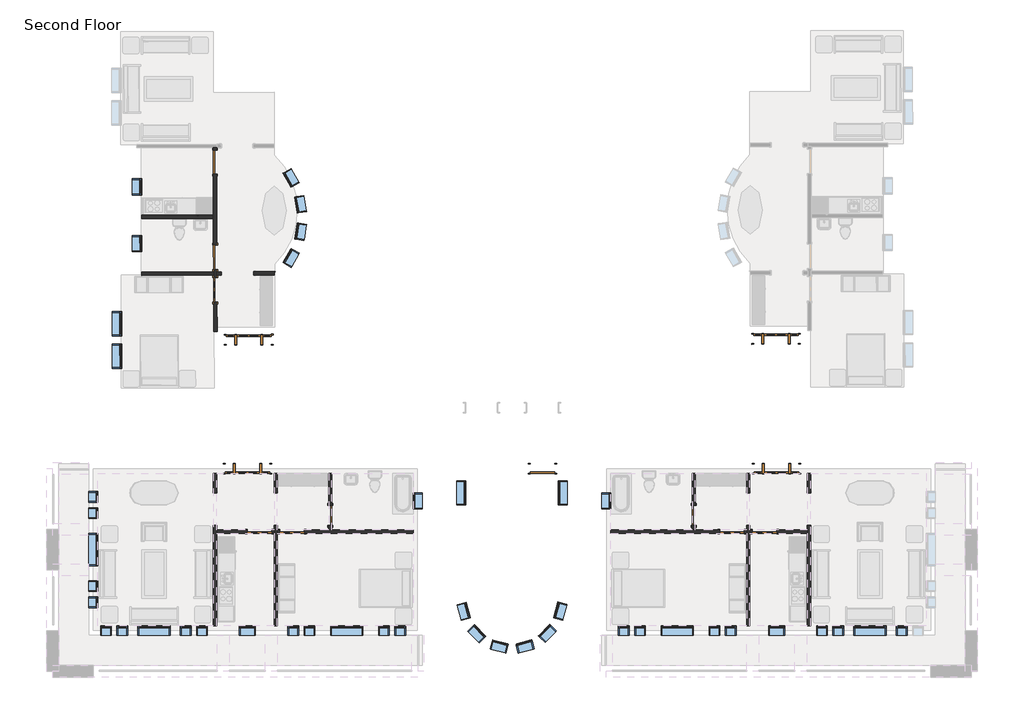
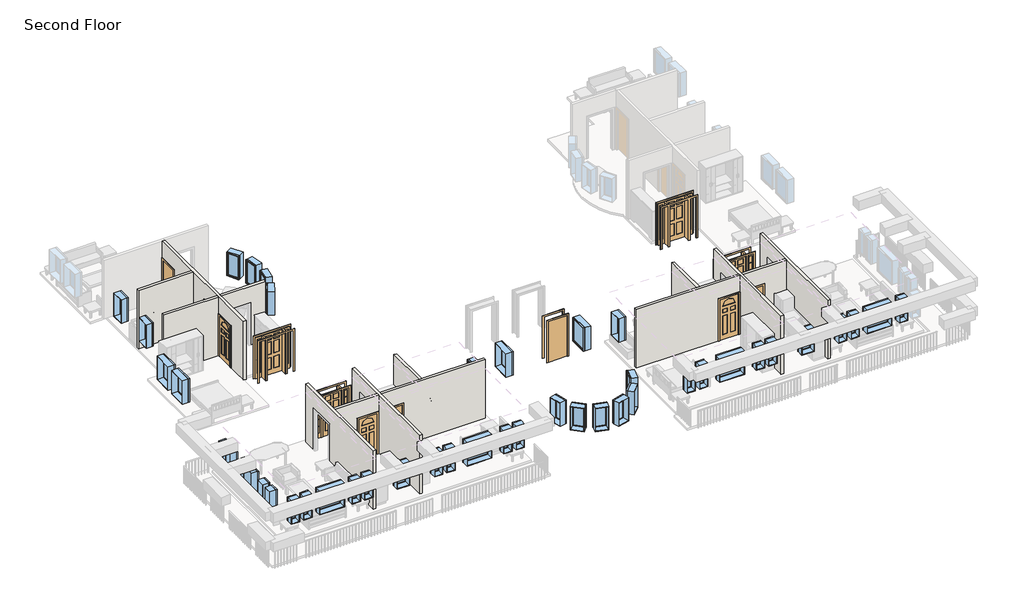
# One storey, part 1 of 6: 44 windows, 14 doors, 14 walls.
"""IFC4 building model written with IfcOpenShell, lengths in millimetres."""

from ifc_helpers import new_model, si_unit, frame, origin, place, context, project, spatial, polyline, circle_curve, outline, extrude, faceted_brep, transform, mapped, element, save
from ifc_brep_helpers import plane_surface, cylinder_surface, advanced_brep
from components import door_829da954, door_2e3b4da2, door_4d6c7550, door_e36758a9, door_cc5399a4, door_a1797ceb, door_a3eb833a, door_dba5aa2e, door_ffdb1193, window_da97879f, window_d61ef850, window_60baf983, window_ed80354a, window_0e2fc6ce, window_6eb97611, window_d89bf842

model = new_model("IFC4")

# Units and contexts
model_context = context("Model", 3, world=origin())
ifc_project = project(units=[si_unit("LENGTHUNIT", "METRE", prefix="MILLI")], contexts=[model_context])

# Site, building, storey
site = spatial("IfcSite", under=ifc_project)
building = spatial("IfcBuilding", under=site)
storey = spatial("IfcBuildingStorey", under=building, Name="Second Floor", Elevation=3048.0)

# Doors
placement = place(None, origin())
door_shape = door_829da954(model_context)
element("IfcDoor", 1, ObjectType="Single-Decorative 2 : 36\" x 84\"", at=placement, inside=storey, context=model_context, shape_type="MappedRepresentation", body=[
    mapped(door_shape, transform((-6669.0589563, -30331.8808133, 3048.0), x_axis=(1.0, 0.0, 0.0), y_axis=(0.0, 1.0, 0.0), z_axis=(0.0, 0.0, 1.0))),
])
element("IfcDoor", 2, ObjectType="Single-Decorative 2 : 36\" x 84\"", at=placement, inside=storey, context=model_context, shape_type="MappedRepresentation", body=[
    mapped(door_shape, transform((-24420.4839563, -30331.8808133, 3048.0), x_axis=(1.0, 0.0, 0.0), y_axis=(0.0, 1.0, 0.0), z_axis=(0.0, 0.0, 1.0))),
])
door_2_shape = door_2e3b4da2(model_context)
element("IfcDoor", 3, ObjectType="Single-Decorative 2 : 36\" x 84\"", at=placement, inside=storey, context=model_context, shape_type="MappedRepresentation", body=[
    mapped(door_2_shape, transform((-5449.8589563, -30331.8808133, 3048.0), x_axis=(-1.0, 0.0, 0.0), y_axis=(0.0, -1.0, 0.0), z_axis=(0.0, 0.0, 1.0))),
])
element("IfcDoor", 4, ObjectType="Single-Decorative 2 : 36\" x 84\"", at=placement, inside=storey, context=model_context, shape_type="MappedRepresentation", body=[
    mapped(door_2_shape, transform((-23201.2839563, -30331.8808133, 3048.0), x_axis=(-1.0, 0.0, 0.0), y_axis=(0.0, -1.0, 0.0), z_axis=(0.0, 0.0, 1.0))),
])
element("IfcDoor", 5, ObjectType="Single-Decorative 2 : 36\" x 84\"", at=placement, inside=storey, context=model_context, shape_type="MappedRepresentation", body=[
    mapped(door_2_shape, transform((-26083.9222963, -21236.9710395, 3048.0), x_axis=(-0.002276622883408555, 0.9999974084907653, 0.0), y_axis=(-0.9999974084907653, -0.002276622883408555, 0.0), z_axis=(0.0, 0.0, 1.0))),
])
door_3_shape = door_4d6c7550(model_context)
element("IfcDoor", 6, ObjectType="Single-Flush : 30\" x 84\"", at=placement, inside=storey, context=model_context, shape_type="MappedRepresentation", body=[
    mapped(door_3_shape, transform((-21764.5964563, -29722.2808133, 3048.0), x_axis=(0.0, -1.0, 0.0), y_axis=(1.0, 0.0, 0.0), z_axis=(0.0, 0.0, 1.0))),
])
door_4_shape = door_e36758a9(model_context)
element("IfcDoor", 7, ObjectType="Single-Flush : 30\" x 84\"", at=placement, inside=storey, context=model_context, shape_type="MappedRepresentation", body=[
    mapped(door_4_shape, transform((-8105.7464563, -29722.2808133, 3048.0), x_axis=(0.0, -1.0, 0.0), y_axis=(1.0, 0.0, 0.0), z_axis=(0.0, 0.0, 1.0))),
])
door_5_shape = door_cc5399a4(model_context)
element("IfcDoor", 8, ObjectType="Single-Flush : 36\" x 84\"", at=placement, inside=storey, context=model_context, shape_type="MappedRepresentation", body=[
    mapped(door_5_shape, transform((-13792.1714563, -27958.5683133, 3048.0), x_axis=(1.0, 0.0, 0.0), y_axis=(0.0, 1.0, 0.0), z_axis=(0.0, 0.0, 1.0))),
])
door_6_shape = door_a1797ceb(model_context)
element("IfcDoor", 9, ObjectType="Single-Flush : 36\" x 84\"", at=placement, inside=storey, context=model_context, shape_type="MappedRepresentation", body=[
    mapped(door_6_shape, transform((-26094.8442239, -16439.5584721, 3048.0), x_axis=(-0.002276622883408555, 0.9999974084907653, 0.0), y_axis=(-0.9999974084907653, -0.002276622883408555, 0.0), z_axis=(0.0, 0.0, 1.0))),
])
door_7_shape = door_a3eb833a(model_context)
element("IfcDoor", 10, ObjectType="Single-Flush : 36\" x 84\"", at=placement, inside=storey, context=model_context, shape_type="MappedRepresentation", body=[
    mapped(door_7_shape, transform((-26086.697955, -20017.7741991, 3048.0), x_axis=(0.002276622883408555, -0.9999974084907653, 0.0), y_axis=(0.9999974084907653, 0.002276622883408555, 0.0), z_axis=(0.0, 0.0, 1.0))),
])
door_8_shape = door_dba5aa2e(model_context)
element("IfcDoor", 11, ObjectType="Single-Raised Panel with Sidelights : 36\" x 84\"", at=placement, inside=storey, context=model_context, shape_type="MappedRepresentation", body=[
    mapped(door_8_shape, transform((-24877.6839563, -27958.5683133, 3048.0), x_axis=(1.0, 0.0, 0.0), y_axis=(0.0, 1.0, 0.0), z_axis=(0.0, 0.0, 1.0))),
])
element("IfcDoor", 12, ObjectType="Single-Raised Panel with Sidelights : 36\" x 84\"", at=placement, inside=storey, context=model_context, shape_type="MappedRepresentation", body=[
    mapped(door_8_shape, transform((-5011.6902332, -23083.5536869, 3048.0), x_axis=(-0.9999997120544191, -0.0007588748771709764, 0.0), y_axis=(0.0007588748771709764, -0.9999997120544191, 0.0), z_axis=(0.0, 0.0, 1.0))),
])
door_9_shape = door_ffdb1193(model_context)
element("IfcDoor", 13, ObjectType="Single-Raised Panel with Sidelights : 36\" x 84\"", at=placement, inside=storey, context=model_context, shape_type="MappedRepresentation", body=[
    mapped(door_9_shape, transform((-4992.6589563, -27958.5683133, 3048.0), x_axis=(-1.0, 0.0, 0.0), y_axis=(0.0, -1.0, 0.0), z_axis=(0.0, 0.0, 1.0))),
])
element("IfcDoor", 14, ObjectType="Single-Raised Panel with Sidelights : 36\" x 84\"", at=placement, inside=storey, context=model_context, shape_type="MappedRepresentation", body=[
    mapped(door_9_shape, transform((-24823.9341006, -23113.6237411, 3048.0), x_axis=(0.9999974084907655, 0.002276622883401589, 0.0), y_axis=(-0.002276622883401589, 0.9999974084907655, 0.0), z_axis=(0.0, 0.0, 1.0))),
])

# Walls
element("IfcWall", 15, ObjectType="Interior - 5\" Partition (2-hr)", at=placement, inside=storey, context=model_context, shape_type="Brep", body=[
    faceted_brep([(-3836.9589563, -33878.3558133, 3048.0), (-3836.9589563, -30395.3808133, 3048.0), (-3836.9589563, -30268.3808133, 3048.0), (-3836.9589563, -30092.1683133, 3048.0), (-3709.9589563, -30092.1683133, 3048.0), (-3709.9589563, -33878.3558133, 3048.0), (-3836.9589563, -28872.9683133, 3048.0), (-3836.9589563, -28134.7808133, 3048.0), (-3709.9589563, -28134.7808133, 3048.0), (-3709.9589563, -28872.9683133, 3048.0), (-3709.9589563, -33878.3558133, 6096.0), (-3709.9589563, -28134.7808133, 6096.0), (-3836.9589563, -28134.7808133, 6096.0), (-3836.9589563, -30268.3808133, 6096.0), (-3836.9589563, -30395.3808133, 6096.0), (-3836.9589563, -33878.3558133, 6096.0), (-3709.9589563, -30092.1683133, 5181.6), (-3709.9589563, -28872.9683133, 5181.6), (-3836.9589563, -30092.1683133, 5181.6), (-3836.9589563, -28872.9683133, 5181.6)], [[[0, 1, 2, 3, 4, 5]], [[6, 7, 8, 9]], [[10, 11, 12, 13, 14, 15]], [[5, 4, 16, 17, 9, 8, 11, 10]], [[18, 3, 2, 1, 0, 15, 14, 13, 12, 7, 6, 19]], [[5, 10, 15, 0]], [[11, 8, 7, 12]], [[9, 17, 19, 6]], [[16, 4, 3, 18]], [[17, 16, 18, 19]]]),
])
element("IfcWall", 16, ObjectType="Interior - 5\" Partition (2-hr)", at=placement, inside=storey, context=model_context, shape_type="Brep", body=[
    faceted_brep([(-5995.9589563, -28134.7808133, 3048.0), (-5995.9589563, -28872.9683133, 3048.0), (-6122.9589563, -28872.9683133, 3048.0), (-6122.9589563, -28134.7808133, 3048.0), (-5995.9589563, -30092.1683133, 3048.0), (-5995.9589563, -30268.3808133, 3048.0), (-5995.9589563, -30395.3808133, 3048.0), (-5995.9589563, -33878.3558133, 3048.0), (-6122.9589563, -33878.3558133, 3048.0), (-6122.9589563, -30395.3808133, 3048.0), (-6122.9589563, -30268.3808133, 3048.0), (-6122.9589563, -30092.1683133, 3048.0), (-5995.9589563, -33878.3558133, 6096.0), (-5995.9589563, -30395.3808133, 6096.0), (-5995.9589563, -30268.3808133, 6096.0), (-5995.9589563, -28134.7808133, 6096.0), (-6122.9589563, -28134.7808133, 6096.0), (-6122.9589563, -30268.3808133, 6096.0), (-6122.9589563, -30395.3808133, 6096.0), (-6122.9589563, -33878.3558133, 6096.0), (-5995.9589563, -28872.9683133, 5181.6), (-5995.9589563, -30092.1683133, 5181.6), (-6122.9589563, -28872.9683133, 5181.6), (-6122.9589563, -30092.1683133, 5181.6)], [[[0, 1, 2, 3]], [[4, 5, 6, 7, 8, 9, 10, 11]], [[12, 13, 14, 15, 16, 17, 18, 19]], [[20, 1, 0, 15, 14, 13, 12, 7, 6, 5, 4, 21]], [[3, 2, 22, 23, 11, 10, 9, 8, 19, 18, 17, 16]], [[7, 12, 19, 8]], [[15, 0, 3, 16]], [[11, 23, 21, 4]], [[22, 2, 1, 20]], [[23, 22, 20, 21]]]),
])
element("IfcWall", 17, ObjectType="Interior - 5\" Partition (2-hr)", at=placement, inside=storey, context=model_context, shape_type="Brep", body=[
    faceted_brep([(-6122.9589563, -30395.3808133, 3048.0), (-6211.8589563, -30395.3808133, 3048.0), (-6211.8589563, -30268.3808133, 3048.0), (-6122.9589563, -30268.3808133, 3048.0), (-7126.2589563, -30395.3808133, 3048.0), (-11217.2464563, -30395.3808133, 3048.0), (-11217.2464563, -30268.3808133, 3048.0), (-8169.2464563, -30268.3808133, 3048.0), (-8042.2464563, -30268.3808133, 3048.0), (-7126.2589563, -30268.3808133, 3048.0), (-11217.2464563, -30395.3808133, 6096.0), (-6122.9589563, -30395.3808133, 6096.0), (-6122.9589563, -30268.3808133, 6096.0), (-8042.2464563, -30268.3808133, 6096.0), (-8169.2464563, -30268.3808133, 6096.0), (-11217.2464563, -30268.3808133, 6096.0), (-6211.8589563, -30395.3808133, 5181.6), (-7126.2589563, -30395.3808133, 5181.6), (-6211.8589563, -30268.3808133, 5181.6), (-7126.2589563, -30268.3808133, 5181.6)], [[[0, 1, 2, 3]], [[4, 5, 6, 7, 8, 9]], [[10, 11, 12, 13, 14, 15]], [[16, 1, 0, 11, 10, 5, 4, 17]], [[3, 2, 18, 19, 9, 8, 7, 6, 15, 14, 13, 12]], [[11, 0, 3, 12]], [[5, 10, 15, 6]], [[18, 2, 1, 16]], [[19, 18, 16, 17]], [[9, 19, 17, 4]]]),
])
element("IfcWall", 18, ObjectType="Interior - 5\" Partition (2-hr)", at=placement, inside=storey, context=model_context, shape_type="SweptSolid", body=[
    extrude(outline(polyline([(-30103.2808133, 5181.6), (-30103.2808133, 3048.0), (-30268.3808133, 3048.0), (-30268.3808133, 6096.0), (-28134.7808133, 6096.0), (-28134.7808133, 3048.0), (-29341.2808133, 3048.0), (-29341.2808133, 5181.6), (-30103.2808133, 5181.6)])), frame((-8169.2464563, 0.0, 0.0), z_axis=(1.0, 0.0, 0.0), x_axis=(0.0, 1.0, 0.0)), (0.0, 0.0, 1.0), 127.0),
])
element("IfcWall", 19, ObjectType="Interior - 5\" Partition (2-hr)", at=placement, inside=storey, context=model_context, shape_type="SweptSolid", body=[
    extrude(outline(polyline([(3048.0, -5995.9589563), (3048.0, -5907.0589563), (5181.6, -5907.0589563), (5181.6, -4992.6589563), (3048.0, -4992.6589563), (3048.0, -3836.9589563), (6096.0, -3836.9589563), (6096.0, -5995.9589563), (3048.0, -5995.9589563)])), frame((0.0, -30395.3808133, 0.0), z_axis=(0.0, 1.0, 0.0), x_axis=(0.0, 0.0, 1.0)), (0.0, 0.0, 1.0), 127.0),
])
element("IfcWall", 20, ObjectType="Interior - 5\" Partition (2-hr)", at=placement, inside=storey, context=model_context, shape_type="Brep", body=[
    faceted_brep([(-26160.3839563, -33878.3558133, 3048.0), (-26160.3839563, -30092.1683133, 3048.0), (-26033.3839563, -30092.1683133, 3048.0), (-26033.3839563, -30268.3808133, 3048.0), (-26033.3839563, -30395.3808133, 3048.0), (-26033.3839563, -33878.3558133, 3048.0), (-26160.3839563, -28872.9683133, 3048.0), (-26160.3839563, -28134.7808133, 3048.0), (-26033.3839563, -28134.7808133, 3048.0), (-26033.3839563, -28872.9683133, 3048.0), (-26033.3839563, -33878.3558133, 6096.0), (-26033.3839563, -30395.3808133, 6096.0), (-26033.3839563, -30268.3808133, 6096.0), (-26033.3839563, -28134.7808133, 6096.0), (-26160.3839563, -28134.7808133, 6096.0), (-26160.3839563, -33878.3558133, 6096.0), (-26033.3839563, -30092.1683133, 5181.6), (-26033.3839563, -28872.9683133, 5181.6), (-26160.3839563, -30092.1683133, 5181.6), (-26160.3839563, -28872.9683133, 5181.6)], [[[0, 1, 2, 3, 4, 5]], [[6, 7, 8, 9]], [[10, 11, 12, 13, 14, 15]], [[5, 4, 3, 2, 16, 17, 9, 8, 13, 12, 11, 10]], [[18, 1, 0, 15, 14, 7, 6, 19]], [[5, 10, 15, 0]], [[13, 8, 7, 14]], [[9, 17, 19, 6]], [[16, 2, 1, 18]], [[17, 16, 18, 19]]]),
])
element("IfcWall", 21, ObjectType="Interior - 5\" Partition (2-hr)", at=placement, inside=storey, context=model_context, shape_type="Brep", body=[
    faceted_brep([(-23747.3839563, -28134.7808133, 3048.0), (-23747.3839563, -28872.9683133, 3048.0), (-23874.3839563, -28872.9683133, 3048.0), (-23874.3839563, -28134.7808133, 3048.0), (-23747.3839563, -30092.1683133, 3048.0), (-23747.3839563, -30268.3808133, 3048.0), (-23747.3839563, -30395.3808133, 3048.0), (-23747.3839563, -33878.3558133, 3048.0), (-23874.3839563, -33878.3558133, 3048.0), (-23874.3839563, -30395.3808133, 3048.0), (-23874.3839563, -30268.3808133, 3048.0), (-23874.3839563, -30092.1683133, 3048.0), (-23747.3839563, -33878.3558133, 6096.0), (-23747.3839563, -30395.3808133, 6096.0), (-23747.3839563, -30268.3808133, 6096.0), (-23747.3839563, -28134.7808133, 6096.0), (-23874.3839563, -28134.7808133, 6096.0), (-23874.3839563, -30268.3808133, 6096.0), (-23874.3839563, -30395.3808133, 6096.0), (-23874.3839563, -33878.3558133, 6096.0), (-23747.3839563, -28872.9683133, 5181.6), (-23747.3839563, -30092.1683133, 5181.6), (-23874.3839563, -28872.9683133, 5181.6), (-23874.3839563, -30092.1683133, 5181.6)], [[[0, 1, 2, 3]], [[4, 5, 6, 7, 8, 9, 10, 11]], [[12, 13, 14, 15, 16, 17, 18, 19]], [[20, 1, 0, 15, 14, 13, 12, 7, 6, 5, 4, 21]], [[3, 2, 22, 23, 11, 10, 9, 8, 19, 18, 17, 16]], [[7, 12, 19, 8]], [[15, 0, 3, 16]], [[11, 23, 21, 4]], [[22, 2, 1, 20]], [[23, 22, 20, 21]]]),
])
element("IfcWall", 22, ObjectType="Interior - 5\" Partition (2-hr)", at=placement, inside=storey, context=model_context, shape_type="Brep", body=[
    faceted_brep([(-23747.3839563, -30268.3808133, 3048.0), (-23658.4839563, -30268.3808133, 3048.0), (-23658.4839563, -30395.3808133, 3048.0), (-23747.3839563, -30395.3808133, 3048.0), (-22744.0839563, -30268.3808133, 3048.0), (-21828.0964563, -30268.3808133, 3048.0), (-21701.0964563, -30268.3808133, 3048.0), (-18653.0964563, -30268.3808133, 3048.0), (-18653.0964563, -30395.3808133, 3048.0), (-22744.0839563, -30395.3808133, 3048.0), (-18653.0964563, -30268.3808133, 6096.0), (-21701.0964563, -30268.3808133, 6096.0), (-21828.0964563, -30268.3808133, 6096.0), (-23747.3839563, -30268.3808133, 6096.0), (-23747.3839563, -30395.3808133, 6096.0), (-18653.0964563, -30395.3808133, 6096.0), (-23658.4839563, -30268.3808133, 5181.6), (-22744.0839563, -30268.3808133, 5181.6), (-23658.4839563, -30395.3808133, 5181.6), (-22744.0839563, -30395.3808133, 5181.6)], [[[0, 1, 2, 3]], [[4, 5, 6, 7, 8, 9]], [[10, 11, 12, 13, 14, 15]], [[16, 1, 0, 13, 12, 11, 10, 7, 6, 5, 4, 17]], [[3, 2, 18, 19, 9, 8, 15, 14]], [[13, 0, 3, 14]], [[7, 10, 15, 8]], [[18, 2, 1, 16]], [[19, 18, 16, 17]], [[9, 19, 17, 4]]]),
])
element("IfcWall", 23, ObjectType="Interior - 5\" Partition (2-hr)", at=placement, inside=storey, context=model_context, shape_type="SweptSolid", body=[
    extrude(outline(polyline([(-30103.2808133, 5181.6), (-30103.2808133, 3048.0), (-30268.3808133, 3048.0), (-30268.3808133, 6096.0), (-28134.7808133, 6096.0), (-28134.7808133, 3048.0), (-29341.2808133, 3048.0), (-29341.2808133, 5181.6), (-30103.2808133, 5181.6)])), frame((-21828.0964563, 0.0, 0.0), z_axis=(1.0, 0.0, 0.0), x_axis=(0.0, 1.0, 0.0)), (0.0, 0.0, 1.0), 127.0),
])
element("IfcWall", 24, ObjectType="Interior - 5\" Partition (2-hr)", at=placement, inside=storey, context=model_context, shape_type="SweptSolid", body=[
    extrude(outline(polyline([(5181.6, -23963.2839563), (3048.0, -23963.2839563), (3048.0, -23874.3839563), (6096.0, -23874.3839563), (6096.0, -26033.3839563), (3048.0, -26033.3839563), (3048.0, -24877.6839563), (5181.6, -24877.6839563), (5181.6, -23963.2839563)])), frame((0.0, -30395.3808133, 0.0), z_axis=(0.0, 1.0, 0.0), x_axis=(0.0, 0.0, 1.0)), (0.0, 0.0, 1.0), 127.0),
])
element("IfcWall", 25, ObjectType="Interior - 5\" Partition (2-hr)", at=placement, inside=storey, context=model_context, shape_type="Brep", body=[
    faceted_brep([(-26016.8625342, -22800.5099217, 3048.0), (-26016.8625342, -22800.5099217, 6096.0), (-26143.862205, -22800.7990528, 6096.0), (-26143.862205, -22800.7990528, 3048.0), (-26032.5876522, -15893.3153218, 3048.0), (-26032.3852604, -15982.2150914, 3048.0), (-26159.3849313, -15982.5042225, 3048.0), (-26159.5873231, -15893.6044529, 3048.0), (-26022.1572475, -20474.8284487, 3048.0), (-26021.9548558, -20563.7282183, 3048.0), (-26021.6657247, -20690.7278892, 3048.0), (-26021.4633329, -20779.6276588, 3048.0), (-26148.4630038, -20779.9167899, 3048.0), (-26148.6653955, -20691.0170203, 3048.0), (-26148.9545266, -20564.0173494, 3048.0), (-26149.1569184, -20475.1175798, 3048.0), (-26151.2386624, -19560.7199495, 3048.0), (-26153.5227981, -18557.4225496, 3048.0), (-26153.8119292, -18430.4228787, 3048.0), (-26157.3031873, -16896.9018528, 3048.0), (-26030.3035165, -16896.6127217, 3048.0), (-26024.2389915, -19560.4308184, 3048.0), (-26019.3815889, -21694.0252892, 3048.0), (-26146.3812598, -21694.3144203, 3048.0), (-26021.6657247, -20690.7278892, 6096.0), (-26021.9548558, -20563.7282183, 6096.0), (-26032.5876522, -15893.3153218, 6096.0), (-26159.5873231, -15893.6044529, 6096.0), (-26153.8119292, -18430.4228787, 6096.0), (-26153.5227981, -18557.4225496, 6096.0), (-26148.9545266, -20564.0173494, 6096.0), (-26148.6653955, -20691.0170203, 6096.0), (-26021.4633329, -20779.6276588, 5181.6), (-26022.1572475, -20474.8284487, 5181.6), (-26024.2389915, -19560.4308184, 5181.6), (-26030.3035165, -16896.6127217, 5181.6), (-26032.3852604, -15982.2150914, 5181.6), (-26019.3815889, -21694.0252892, 5181.6), (-26148.4630038, -20779.9167899, 5181.6), (-26146.3812598, -21694.3144203, 5181.6), (-26159.3849313, -15982.5042225, 5181.6), (-26157.3031873, -16896.9018528, 5181.6), (-26151.2386624, -19560.7199495, 5181.6), (-26149.1569184, -20475.1175798, 5181.6)], [[[0, 1, 2, 3]], [[4, 5, 6, 7]], [[8, 9, 10, 11, 12, 13, 14, 15]], [[16, 17, 18, 19, 20, 21]], [[22, 0, 3, 23]], [[1, 24, 25, 26, 27, 28, 29, 30, 31, 2]], [[32, 11, 10, 9, 8, 33, 34, 21, 20, 35, 36, 5, 4, 26, 25, 24, 1, 0, 22, 37]], [[15, 14, 13, 12, 38, 39, 23, 3, 2, 31, 30, 29, 28, 27, 7, 6, 40, 41, 19, 18, 17, 16, 42, 43]], [[26, 4, 7, 27]], [[40, 6, 5, 36]], [[41, 40, 36, 35]], [[19, 41, 35, 20]], [[33, 8, 15, 43]], [[34, 33, 43, 42]], [[21, 34, 42, 16]], [[38, 12, 11, 32]], [[39, 38, 32, 37]], [[23, 39, 37, 22]]]),
])
element("IfcWall", 26, ObjectType="Interior - 5\" Partition (2-hr)", at=placement, inside=storey, context=model_context, shape_type="SweptSolid", body=[
    extrude(outline(polyline([(-26148.6653955, -20691.0170203), (-28844.2334099, -20697.153828), (-28844.522541, -20570.1541572), (-26148.9545266, -20564.0173494), (-26148.6653955, -20691.0170203)])), frame((0.0, 0.0, 3048.0), z_axis=(0.0, 0.0, 1.0), x_axis=(1.0, 0.0, 0.0)), (0.0, 0.0, 1.0), 3048.0),
])
element("IfcWall", 27, ObjectType="Interior - 5\" Partition (2-hr)", at=placement, inside=storey, context=model_context, shape_type="SweptSolid", body=[
    extrude(outline(polyline([(-28849.3799436, -18436.5596864), (-26153.8119292, -18430.4228787), (-26153.5227981, -18557.4225496), (-28849.0908125, -18563.5593573), (-28849.3799436, -18436.5596864)])), frame((0.0, 0.0, 3048.0), z_axis=(0.0, 0.0, 1.0), x_axis=(1.0, 0.0, 0.0)), (0.0, 0.0, 1.0), 3048.0),
])
element("IfcWall", 28, ObjectType="Interior - 5\" Partition (2-hr)", at=placement, inside=storey, context=model_context, shape_type="AdvancedBrep", body=[
    advanced_brep(
    [(-23862.6713197, -20685.8126604, 3048.0), (-24637.3693121, -20687.5763602, 3048.0), (-24637.6584432, -20560.5766893, 3048.0), (-23821.5805341, -20558.7187828, 3048.0), (-23862.8671077, -20599.8135871, 3048.0), (-25856.5661525, -20690.3520188, 3048.0), (-26021.6657247, -20690.7278892, 3048.0), (-26021.9548558, -20563.7282183, 3048.0), (-25856.8552836, -20563.3523479, 3048.0), (-26021.6657247, -20690.7278892, 6096.0), (-23862.6713197, -20685.8126604, 6096.0), (-23862.8671077, -20599.8135871, 6096.0), (-23821.5805341, -20558.7187828, 6096.0), (-26021.9548558, -20563.7282183, 6096.0), (-24637.3693121, -20687.5763602, 5181.6), (-25856.5661525, -20690.3520188, 5181.6), (-24637.6584432, -20560.5766893, 5181.6), (-25856.8552836, -20563.3523479, 5181.6)],
    [
        (0, 1),
        (1, 2),
        (2, 3),
        (3, 4, circle_curve(frame((-25868.0475266, -18543.9889514, 3048.0), z_axis=(0.0, 0.0, -1.0), x_axis=(0.7158693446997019, 0.6982342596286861, 0.0)), 2871.7875)),
        (4, 0),
        (5, 6),
        (6, 7),
        (7, 8),
        (8, 5),
        (9, 10),
        (10, 11),
        (11, 12, circle_curve(frame((-25868.0475266, -18543.9889514, 6096.0), z_axis=(0.0, 0.0, 1.0), x_axis=(0.7158693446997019, 0.6982342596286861, 0.0)), 2871.7875)),
        (12, 13),
        (13, 9),
        (14, 1),
        (0, 10),
        (9, 6),
        (5, 15),
        (15, 14),
        (2, 16),
        (16, 17),
        (17, 8),
        (7, 13),
        (12, 3),
        (4, 11),
        (17, 15),
        (14, 16),
    ],
    [
        plane_surface(frame((-26085.1655601, -20690.8724548, 3048.0), z_axis=(0.0, 0.0, -1.0000000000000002), x_axis=(-0.002276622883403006, 0.9999974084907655, 0.0))),
        plane_surface(frame((-23637.8803504, -20685.3008948, 6096.0), z_axis=(0.0, 0.0, 1.0000000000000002), x_axis=(-0.002276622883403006, 0.9999974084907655, 0.0))),
        plane_surface(frame((-26085.1655601, -20690.8724548, 3048.0), z_axis=(0.0022766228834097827, -0.9999974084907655, 0.0), x_axis=(0.9999974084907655, 0.0022766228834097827, 0.0))),
        plane_surface(frame((-26085.4546912, -20563.8727839, 3048.0), z_axis=(-0.0022766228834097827, 0.9999974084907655, 0.0), x_axis=(-0.9999974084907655, -0.0022766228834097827, 0.0))),
        plane_surface(frame((-26017.2637036, -22624.2978783, 3048.0), z_axis=(-0.9999974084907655, -0.002276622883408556, 0.0), x_axis=(-0.002276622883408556, 0.9999974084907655, 0.0))),
        plane_surface(frame((-23860.0081069, -21855.6181588, 2895.6), z_axis=(0.9999974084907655, 0.002276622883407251, 0.0), x_axis=(-0.002276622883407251, 0.9999974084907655, 0.0))),
        cylinder_surface(frame((-25868.0475266, -18543.9889514, 2895.6), z_axis=(0.0, 0.0, 1.0), x_axis=(0.7158693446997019, 0.6982342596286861, 0.0)), 2871.7875),
        plane_surface(frame((-25856.8552836, -20563.3523479, 5181.6), z_axis=(0.9999974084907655, 0.002276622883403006, 0.0), x_axis=(0.002276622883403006, -0.9999974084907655, 0.0))),
        plane_surface(frame((-24637.6584432, -20560.5766893, 3048.0), z_axis=(-0.9999974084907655, -0.002276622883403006, 0.0), x_axis=(0.002276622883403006, -0.9999974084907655, 0.0))),
        plane_surface(frame((-24637.6584432, -20560.5766893, 5181.6), z_axis=(0.0, 0.0, -1.0000000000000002), x_axis=(0.002276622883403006, -0.9999974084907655, 0.0))),
    ],
    [
        (0, [[1, 2, 3, 4, 5]]),
        (0, [[6, 7, 8, 9]]),
        (1, [[10, 11, 12, 13, 14]]),
        (2, [[15, -1, 16, -10, 17, -6, 18, 19]]),
        (3, [[-3, 20, 21, 22, -8, 23, -13, 24]]),
        (4, [[-17, -14, -23, -7]]),
        (5, [[-16, -5, 25, -11]]),
        (6, [[-4, -24, -12, -25]]),
        (7, [[-22, 26, -18, -9]]),
        (8, [[-20, -2, -15, 27]]),
        (9, [[-21, -27, -19, -26]]),
    ],
),
])

# Windows
window_shape = window_da97879f(model_context)
element("IfcWindow", 29, ObjectType="Fixed : 16\" x 48\"", at=placement, inside=storey, context=model_context, shape_type="MappedRepresentation", body=[
    mapped(window_shape, transform((-6681.7589563, -34054.5683133, 3048.0), x_axis=(1.0, 0.0, 0.0), y_axis=(0.0, 1.0, 0.0), z_axis=(0.0, 0.0, 1.0))),
])
element("IfcWindow", 30, ObjectType="Fixed : 16\" x 48\"", at=placement, inside=storey, context=model_context, shape_type="MappedRepresentation", body=[
    mapped(window_shape, transform((-7291.3589563, -34054.5683133, 3048.0), x_axis=(1.0, 0.0, 0.0), y_axis=(0.0, 1.0, 0.0), z_axis=(0.0, 0.0, 1.0))),
])
element("IfcWindow", 31, ObjectType="Fixed : 16\" x 48\"", at=placement, inside=storey, context=model_context, shape_type="MappedRepresentation", body=[
    mapped(window_shape, transform((-255.5589563, -34054.5683133, 3048.0), x_axis=(1.0, 0.0, 0.0), y_axis=(0.0, 1.0, 0.0), z_axis=(0.0, 0.0, 1.0))),
])
element("IfcWindow", 32, ObjectType="Fixed : 16\" x 48\"", at=placement, inside=storey, context=model_context, shape_type="MappedRepresentation", body=[
    mapped(window_shape, transform((-19099.1839563, -34054.5683133, 3048.0), x_axis=(1.0, 0.0, 0.0), y_axis=(0.0, 1.0, 0.0), z_axis=(0.0, 0.0, 1.0))),
])
element("IfcWindow", 33, ObjectType="Fixed : 16\" x 48\"", at=placement, inside=storey, context=model_context, shape_type="MappedRepresentation", body=[
    mapped(window_shape, transform((-19708.7839563, -34054.5683133, 3048.0), x_axis=(1.0, 0.0, 0.0), y_axis=(0.0, 1.0, 0.0), z_axis=(0.0, 0.0, 1.0))),
])
element("IfcWindow", 34, ObjectType="Fixed : 16\" x 48\"", at=placement, inside=storey, context=model_context, shape_type="MappedRepresentation", body=[
    mapped(window_shape, transform((-26541.3839563, -34054.5683133, 3048.0), x_axis=(1.0, 0.0, 0.0), y_axis=(0.0, 1.0, 0.0), z_axis=(0.0, 0.0, 1.0))),
])
element("IfcWindow", 35, ObjectType="Fixed : 16\" x 48\"", at=placement, inside=storey, context=model_context, shape_type="MappedRepresentation", body=[
    mapped(window_shape, transform((-27150.9839563, -34054.5683133, 3048.0), x_axis=(1.0, 0.0, 0.0), y_axis=(0.0, 1.0, 0.0), z_axis=(0.0, 0.0, 1.0))),
])
element("IfcWindow", 36, ObjectType="Fixed : 16\" x 48\"", at=placement, inside=storey, context=model_context, shape_type="MappedRepresentation", body=[
    mapped(window_shape, transform((-30668.8839563, -33025.8683133, 3048.0), x_axis=(0.0, -1.0, 0.0), y_axis=(1.0, 0.0, 0.0), z_axis=(0.0, 0.0, 1.0))),
])
element("IfcWindow", 37, ObjectType="Fixed : 16\" x 48\"", at=placement, inside=storey, context=model_context, shape_type="MappedRepresentation", body=[
    mapped(window_shape, transform((-30668.8839563, -32416.2683133, 3048.0), x_axis=(0.0, -1.0, 0.0), y_axis=(1.0, 0.0, 0.0), z_axis=(0.0, 0.0, 1.0))),
])
window_2_shape = window_d61ef850(model_context)
element("IfcWindow", 38, ObjectType="Fixed : 16\" x 48\"", at=placement, inside=storey, context=model_context, shape_type="MappedRepresentation", body=[
    mapped(window_2_shape, transform((-10771.1589563, -34054.5683133, 3048.0), x_axis=(-1.0, 0.0, 0.0), y_axis=(0.0, -1.0, 0.0), z_axis=(0.0, 0.0, 1.0))),
])
element("IfcWindow", 39, ObjectType="Fixed : 16\" x 48\"", at=placement, inside=storey, context=model_context, shape_type="MappedRepresentation", body=[
    mapped(window_2_shape, transform((-10161.5589563, -34054.5683133, 3048.0), x_axis=(-1.0, 0.0, 0.0), y_axis=(0.0, -1.0, 0.0), z_axis=(0.0, 0.0, 1.0))),
])
element("IfcWindow", 40, ObjectType="Fixed : 16\" x 48\"", at=placement, inside=storey, context=model_context, shape_type="MappedRepresentation", body=[
    mapped(window_2_shape, transform((-3328.9589563, -34054.5683133, 3048.0), x_axis=(-1.0, 0.0, 0.0), y_axis=(0.0, -1.0, 0.0), z_axis=(0.0, 0.0, 1.0))),
])
element("IfcWindow", 41, ObjectType="Fixed : 16\" x 48\"", at=placement, inside=storey, context=model_context, shape_type="MappedRepresentation", body=[
    mapped(window_2_shape, transform((-2719.3589563, -34054.5683133, 3048.0), x_axis=(-1.0, 0.0, 0.0), y_axis=(0.0, -1.0, 0.0), z_axis=(0.0, 0.0, 1.0))),
])
element("IfcWindow", 42, ObjectType="Fixed : 16\" x 48\"", at=placement, inside=storey, context=model_context, shape_type="MappedRepresentation", body=[
    mapped(window_2_shape, transform((-23188.5839563, -34054.5683133, 3048.0), x_axis=(-1.0, 0.0, 0.0), y_axis=(0.0, -1.0, 0.0), z_axis=(0.0, 0.0, 1.0))),
])
element("IfcWindow", 43, ObjectType="Fixed : 16\" x 48\"", at=placement, inside=storey, context=model_context, shape_type="MappedRepresentation", body=[
    mapped(window_2_shape, transform((-22578.9839563, -34054.5683133, 3048.0), x_axis=(-1.0, 0.0, 0.0), y_axis=(0.0, -1.0, 0.0), z_axis=(0.0, 0.0, 1.0))),
])
element("IfcWindow", 44, ObjectType="Fixed : 16\" x 48\"", at=placement, inside=storey, context=model_context, shape_type="MappedRepresentation", body=[
    mapped(window_2_shape, transform((-30224.3839563, -34054.5683133, 3048.0), x_axis=(-1.0, 0.0, 0.0), y_axis=(0.0, -1.0, 0.0), z_axis=(0.0, 0.0, 1.0))),
])
element("IfcWindow", 45, ObjectType="Fixed : 16\" x 48\"", at=placement, inside=storey, context=model_context, shape_type="MappedRepresentation", body=[
    mapped(window_2_shape, transform((-29614.7839563, -34054.5683133, 3048.0), x_axis=(-1.0, 0.0, 0.0), y_axis=(0.0, -1.0, 0.0), z_axis=(0.0, 0.0, 1.0))),
])
element("IfcWindow", 46, ObjectType="Fixed : 16\" x 48\"", at=placement, inside=storey, context=model_context, shape_type="MappedRepresentation", body=[
    mapped(window_2_shape, transform((-30668.8839563, -28987.2683133, 3048.0), x_axis=(0.0, 1.0, 0.0), y_axis=(-1.0, 0.0, 0.0), z_axis=(0.0, 0.0, 1.0))),
])
element("IfcWindow", 47, ObjectType="Fixed : 16\" x 48\"", at=placement, inside=storey, context=model_context, shape_type="MappedRepresentation", body=[
    mapped(window_2_shape, transform((-30668.8839563, -29596.8683133, 3048.0), x_axis=(0.0, 1.0, 0.0), y_axis=(-1.0, 0.0, 0.0), z_axis=(0.0, 0.0, 1.0))),
])
window_3_shape = window_60baf983(model_context)
element("IfcWindow", 48, ObjectType="Fixed : 24\" x 48\"", at=placement, inside=storey, context=model_context, shape_type="MappedRepresentation", body=[
    mapped(window_3_shape, transform((-24839.5839563, -34054.5683133, 3048.0), x_axis=(1.0, 0.0, 0.0), y_axis=(0.0, 1.0, 0.0), z_axis=(0.0, 0.0, 1.0))),
])
element("IfcWindow", 49, ObjectType="Fixed : 24\" x 48\"", at=placement, inside=storey, context=model_context, shape_type="MappedRepresentation", body=[
    mapped(window_3_shape, transform((-18476.8839563, -29139.6683133, 3048.0), x_axis=(0.0, 1.0, 0.0), y_axis=(-1.0, 0.0, 0.0), z_axis=(0.0, 0.0, 1.0))),
])
element("IfcWindow", 50, ObjectType="Fixed : 24\" x 48\"", at=placement, inside=storey, context=model_context, shape_type="MappedRepresentation", body=[
    mapped(window_3_shape, transform((-23212.0202277, -20010.0927579, 3048.0), x_axis=(0.4942132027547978, 0.8693407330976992, 0.0), y_axis=(-0.8693407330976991, 0.49421320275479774, 0.0), z_axis=(0.0, 0.0, 0.9999999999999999))),
])
element("IfcWindow", 51, ObjectType="Fixed : 24\" x 48\"", at=placement, inside=storey, context=model_context, shape_type="MappedRepresentation", body=[
    mapped(window_3_shape, transform((-22870.9575118, -19014.5129434, 3048.0), x_axis=(0.1674882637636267, 0.9858740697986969, 0.0), y_axis=(-0.9858740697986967, 0.16748826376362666, 0.0), z_axis=(0.0, 0.0, 0.9999999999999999))),
])
window_4_shape = window_ed80354a(model_context)
element("IfcWindow", 52, ObjectType="Fixed : 24\" x 48\"", at=placement, inside=storey, context=model_context, shape_type="MappedRepresentation", body=[
    mapped(window_4_shape, transform((-5030.7589563, -34054.5683133, 3048.0), x_axis=(-1.0, 0.0, 0.0), y_axis=(0.0, -1.0, 0.0), z_axis=(0.0, 0.0, 1.0))),
])
element("IfcWindow", 53, ObjectType="Fixed : 24\" x 48\"", at=placement, inside=storey, context=model_context, shape_type="MappedRepresentation", body=[
    mapped(window_4_shape, transform((-11393.4589563, -29139.6683133, 3048.0), x_axis=(0.0, 1.0, 0.0), y_axis=(-1.0, 0.0, 0.0), z_axis=(0.0, 0.0, 1.0))),
])
element("IfcWindow", 54, ObjectType="Fixed : 24\" x 48\"", at=placement, inside=storey, context=model_context, shape_type="MappedRepresentation", body=[
    mapped(window_4_shape, transform((-16757.5848795, -33290.1635131, 3048.0), x_axis=(-0.26176149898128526, 0.9651325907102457, 0.0), y_axis=(-0.9651325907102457, -0.26176149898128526, 0.0), z_axis=(0.0, 0.0, 1.0))),
])
element("IfcWindow", 55, ObjectType="Fixed : 24\" x 48\"", at=placement, inside=storey, context=model_context, shape_type="MappedRepresentation", body=[
    mapped(window_4_shape, transform((-16286.0301771, -34140.4392215, 3048.0), x_axis=(-0.7092584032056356, 0.7049485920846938, 0.0), y_axis=(-0.7049485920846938, -0.7092584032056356, 0.0), z_axis=(0.0, 0.0, 1.0))),
])
element("IfcWindow", 56, ObjectType="Fixed : 24\" x 48\"", at=placement, inside=storey, context=model_context, shape_type="MappedRepresentation", body=[
    mapped(window_4_shape, transform((-15452.5139714, -34641.0222339, 3048.0), x_axis=(-0.966710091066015, 0.2558741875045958, 0.0), y_axis=(-0.2558741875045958, -0.966710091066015, 0.0), z_axis=(0.0, 0.0, 1.0))),
])
element("IfcWindow", 57, ObjectType="Fixed : 24\" x 48\"", at=placement, inside=storey, context=model_context, shape_type="MappedRepresentation", body=[
    mapped(window_4_shape, transform((-14480.3762565, -34657.7817365, 3048.0), x_axis=(-0.9651325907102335, -0.2617614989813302, 0.0), y_axis=(0.2617614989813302, -0.9651325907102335, 0.0), z_axis=(0.0, 0.0, 1.0))),
])
element("IfcWindow", 58, ObjectType="Fixed : 24\" x 48\"", at=placement, inside=storey, context=model_context, shape_type="MappedRepresentation", body=[
    mapped(window_4_shape, transform((-13630.1005482, -34186.2270341, 3048.0), x_axis=(-0.7049485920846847, -0.7092584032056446, 0.0), y_axis=(0.7092584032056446, -0.7049485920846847, 0.0), z_axis=(0.0, 0.0, 1.0))),
])
element("IfcWindow", 59, ObjectType="Fixed : 24\" x 48\"", at=placement, inside=storey, context=model_context, shape_type="MappedRepresentation", body=[
    mapped(window_4_shape, transform((-13129.5175357, -33352.7108284, 3048.0), x_axis=(-0.2558741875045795, -0.9667100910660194, 0.0), y_axis=(0.9667100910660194, -0.2558741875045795, 0.0), z_axis=(0.0, 0.0, 1.0))),
])
element("IfcWindow", 60, ObjectType="Fixed : 24\" x 48\"", at=placement, inside=storey, context=model_context, shape_type="MappedRepresentation", body=[
    mapped(window_4_shape, transform((-29023.2466013, -19467.1620422, 3048.0), x_axis=(-0.0022766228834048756, 0.9999974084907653, 0.0), y_axis=(-0.9999974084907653, -0.0022766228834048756, 0.0), z_axis=(0.0, 0.0, 1.0))),
])
element("IfcWindow", 61, ObjectType="Fixed : 24\" x 48\"", at=placement, inside=storey, context=model_context, shape_type="MappedRepresentation", body=[
    mapped(window_4_shape, transform((-29028.1040039, -17333.5675714, 3048.0), x_axis=(-0.0022766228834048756, 0.9999974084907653, 0.0), y_axis=(-0.9999974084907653, -0.0022766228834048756, 0.0), z_axis=(0.0, 0.0, 1.0))),
])
element("IfcWindow", 62, ObjectType="Fixed : 24\" x 48\"", at=placement, inside=storey, context=model_context, shape_type="MappedRepresentation", body=[
    mapped(window_4_shape, transform((-23218.7232738, -17065.8068288, 3048.0), x_axis=(0.4981663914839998, -0.8670814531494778, 0.0), y_axis=(0.8670814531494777, 0.49816639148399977, 0.0), z_axis=(0.0, 0.0, 0.9999999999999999))),
])
element("IfcWindow", 63, ObjectType="Fixed : 24\" x 48\"", at=placement, inside=storey, context=model_context, shape_type="MappedRepresentation", body=[
    mapped(window_4_shape, transform((-22873.1309855, -18059.8233848, 3048.0), x_axis=(0.17197544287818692, -0.9851012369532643, 0.0), y_axis=(0.9851012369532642, 0.1719754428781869, 0.0), z_axis=(0.0, 0.0, 0.9999999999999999))),
])
window_5_shape = window_0e2fc6ce(model_context)
element("IfcWindow", 64, ObjectType="Fixed : 36\" x 48\"", at=placement, inside=storey, context=model_context, shape_type="MappedRepresentation", body=[
    mapped(window_5_shape, transform((-16840.1714563, -28834.8683133, 3048.0), x_axis=(0.0, 1.0, 0.0), y_axis=(-1.0, 0.0, 0.0), z_axis=(0.0, 0.0, 1.0))),
])
element("IfcWindow", 65, ObjectType="Fixed : 36\" x 48\"", at=placement, inside=storey, context=model_context, shape_type="MappedRepresentation", body=[
    mapped(window_5_shape, transform((-13030.1714563, -28911.0683133, 3048.0), x_axis=(0.0, -1.0, 0.0), y_axis=(1.0, 0.0, 0.0), z_axis=(0.0, 0.0, 1.0))),
])
element("IfcWindow", 66, ObjectType="Fixed : 36\" x 48\"", at=placement, inside=storey, context=model_context, shape_type="MappedRepresentation", body=[
    mapped(window_5_shape, transform((-29775.6201749, -23696.3983732, 3048.0), x_axis=(-0.0022766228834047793, 0.9999974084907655, 0.0), y_axis=(-0.9999974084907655, -0.0022766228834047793, 0.0), z_axis=(0.0, 0.0, 1.0))),
])
element("IfcWindow", 67, ObjectType="Fixed : 36\" x 48\"", at=placement, inside=storey, context=model_context, shape_type="MappedRepresentation", body=[
    mapped(window_5_shape, transform((-29778.3958335, -22477.2015328, 3048.0), x_axis=(-0.0022766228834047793, 0.9999974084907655, 0.0), y_axis=(-0.9999974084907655, -0.0022766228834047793, 0.0), z_axis=(0.0, 0.0, 1.0))),
])
window_6_shape = window_6eb97611(model_context)
element("IfcWindow", 68, ObjectType="Fixed : 48\" x 48\"", at=placement, inside=storey, context=model_context, shape_type="MappedRepresentation", body=[
    mapped(window_6_shape, transform((-21105.7839563, -34054.5683133, 3048.0), x_axis=(1.0, 0.0, 0.0), y_axis=(0.0, 1.0, 0.0), z_axis=(0.0, 0.0, 1.0))),
])
element("IfcWindow", 69, ObjectType="Fixed : 48\" x 48\"", at=placement, inside=storey, context=model_context, shape_type="MappedRepresentation", body=[
    mapped(window_6_shape, transform((-28344.7839563, -34054.5683133, 3048.0), x_axis=(1.0, 0.0, 0.0), y_axis=(0.0, 1.0, 0.0), z_axis=(0.0, 0.0, 1.0))),
])
element("IfcWindow", 70, ObjectType="Fixed : 48\" x 48\"", at=placement, inside=storey, context=model_context, shape_type="MappedRepresentation", body=[
    mapped(window_6_shape, transform((-30668.8839563, -31044.6683133, 3048.0), x_axis=(0.0, -1.0, 0.0), y_axis=(1.0, 0.0, 0.0), z_axis=(0.0, 0.0, 1.0))),
])
window_7_shape = window_d89bf842(model_context)
element("IfcWindow", 71, ObjectType="Fixed : 48\" x 48\"", at=placement, inside=storey, context=model_context, shape_type="MappedRepresentation", body=[
    mapped(window_7_shape, transform((-8764.5589563, -34054.5683133, 3048.0), x_axis=(-1.0, 0.0, 0.0), y_axis=(0.0, -1.0, 0.0), z_axis=(0.0, 0.0, 1.0))),
])
element("IfcWindow", 72, ObjectType="Fixed : 48\" x 48\"", at=placement, inside=storey, context=model_context, shape_type="MappedRepresentation", body=[
    mapped(window_7_shape, transform((-1525.5589563, -34054.5683133, 3048.0), x_axis=(-1.0, 0.0, 0.0), y_axis=(0.0, -1.0, 0.0), z_axis=(0.0, 0.0, 1.0))),
])

save(model, "model.ifc")
